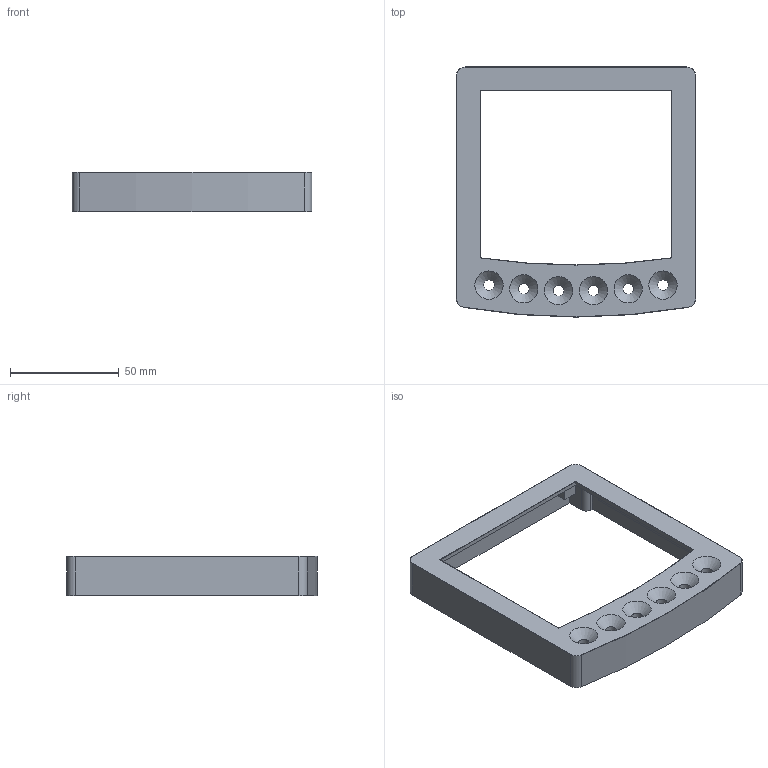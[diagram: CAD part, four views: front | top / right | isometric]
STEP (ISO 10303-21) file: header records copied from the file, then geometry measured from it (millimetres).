
FILE_DESCRIPTION(/* description */ ('STEP AP242','CAx-IF Rec.Pracs.---Representation and Presentation of Product Manufacturing Information (PMI)---4.0---2014-10-13','CAx-IF Rec.Pracs.---3D Tessellated Geometry---0.4---2014-09-14','2;1'),/* implementation_level */ '2;1');
FILE_NAME(/* name */ '676d3beaa686895630a1f55e',/* time_stamp */ '2024-12-26T11:20:11Z',/* author */ (''),/* organization */ (''),/* preprocessor_version */ 'ST-DEVELOPER v20',/* originating_system */ 'ONSHAPE BY PTC INC, 1.191',/* authorisation */ ' ');
FILE_SCHEMA (('AP242_MANAGED_MODEL_BASED_3D_ENGINEERING_MIM_LF { 1 0 10303 442 1 1 4 }'));
Length unit declared in the file: metre
Products named in the file (1): Front Case
Bounding box: 110 x 115 x 18 mm (x, y, z)
Volume: 49494.7 mm3; surface area: 27680.7 mm2
Topology: 1 solids, 1 shells, 107 faces, 289 edges, 185 vertices
Faces by surface type: plane 41, cylinder 38, cone 22, torus 6
Full cylindrical faces by diameter (mm): 1.6 x5, 3.5 x5, 5 x6, 6 x6
Entity records: 2976 total; most frequent: DIRECTION 520, CARTESIAN_POINT 500, ORIENTED_EDGE 436, EDGE_CURVE 218, AXIS2_PLACEMENT_3D 196, FACE_BOUND 176, VERTEX_POINT 168, EDGE_LOOP 166
